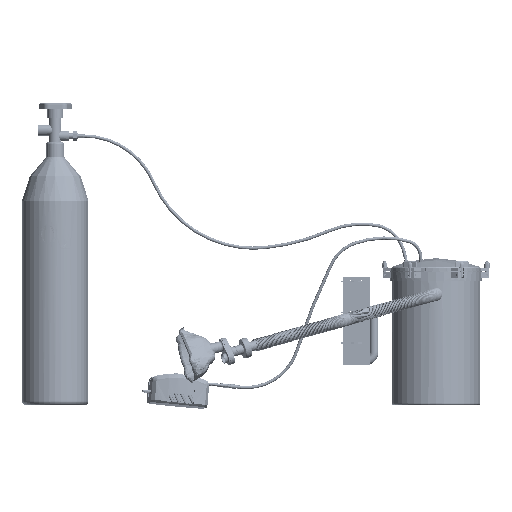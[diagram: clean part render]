
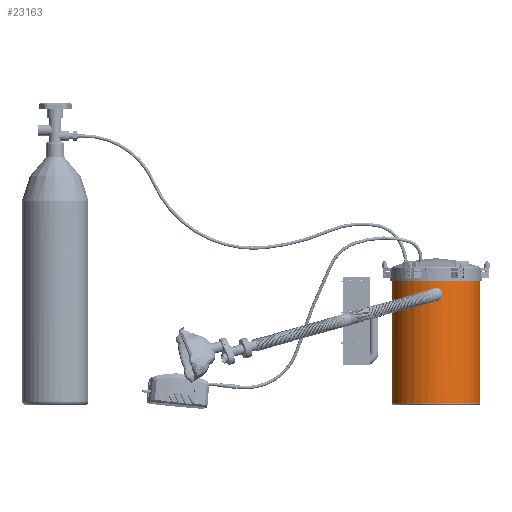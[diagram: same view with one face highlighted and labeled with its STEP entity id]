
A CAD part, top view. The second image highlights one B-rep face of the part: STEP entity #23163.
In plain terms, the highlighted cylindrical face has radius 100 mm (diameter 200 mm), a full revolution.
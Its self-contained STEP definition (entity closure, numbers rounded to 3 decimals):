
#6127=FACE_BOUND('',#8509,.T.);
#6128=FACE_BOUND('',#8510,.T.);
#6129=FACE_BOUND('',#8511,.T.);
#6466=B_SPLINE_CURVE_WITH_KNOTS('',3,(#32724,#32725,#32726,#32727,#32728,
#32729,#32730,#32731,#32732,#32733,#32734,#32735,#32736,#32737,#32738,#32739,
#32740,#32741,#32742,#32743,#32744,#32745,#32746,#32747,#32748,#32749,#32750,
#32751,#32752,#32753,#32754,#32755,#32756,#32757),.UNSPECIFIED.,.T.,.F.,
(4,2,2,2,2,2,2,2,2,2,2,2,2,2,2,2,4),(0.,0.377,0.754,
1.131,1.508,1.885,2.262,2.639,
3.016,3.393,3.77,4.147,4.523,
4.9,5.277,5.654,6.031),
 .UNSPECIFIED.);
#6467=B_SPLINE_CURVE_WITH_KNOTS('',3,(#32767,#32768,#32769,#32770,#32771,
#32772,#32773,#32774,#32775,#32776,#32777,#32778,#32779,#32780,#32781,#32782,
#32783),.UNSPECIFIED.,.T.,.F.,(4,1,1,1,1,1,1,1,1,1,1,1,1,1,4),(-13.411,
-12.863,-12.316,-11.768,-11.221,
-10.674,-10.126,-9.396,-9.032,
-8.667,-7.937,-7.389,-6.842,
-6.295,-5.747),.UNSPECIFIED.);
#7204=FACE_OUTER_BOUND('',#8508,.T.);
#8508=EDGE_LOOP('',(#16770));
#8509=EDGE_LOOP('',(#16771));
#8510=EDGE_LOOP('',(#16772));
#8511=EDGE_LOOP('',(#16773));
#10149=CIRCLE('',#24644,100.);
#10150=CIRCLE('',#24645,100.);
#10937=VERTEX_POINT('',#32723);
#10939=VERTEX_POINT('',#32762);
#10940=VERTEX_POINT('',#32764);
#10941=VERTEX_POINT('',#32766);
#13412=EDGE_CURVE('',#10937,#10937,#6466,.T.);
#13414=EDGE_CURVE('',#10939,#10939,#10149,.T.);
#13415=EDGE_CURVE('',#10940,#10940,#10150,.T.);
#13416=EDGE_CURVE('',#10941,#10941,#6467,.T.);
#16770=ORIENTED_EDGE('',*,*,#13414,.T.);
#16771=ORIENTED_EDGE('',*,*,#13412,.T.);
#16772=ORIENTED_EDGE('',*,*,#13415,.T.);
#16773=ORIENTED_EDGE('',*,*,#13416,.F.);
#22881=CYLINDRICAL_SURFACE('',#24643,100.);
#23163=ADVANCED_FACE('',(#7204,#6127,#6128,#6129),#22881,.T.);
#24643=AXIS2_PLACEMENT_3D('',#32761,#26752,#26753);
#24644=AXIS2_PLACEMENT_3D('',#32763,#26754,#26755);
#24645=AXIS2_PLACEMENT_3D('',#32765,#26756,#26757);
#26752=DIRECTION('center_axis',(-1.,0.,0.));
#26753=DIRECTION('ref_axis',(0.,0.,1.));
#26754=DIRECTION('center_axis',(1.,0.,0.));
#26755=DIRECTION('ref_axis',(0.,0.,1.));
#26756=DIRECTION('center_axis',(-1.,0.,0.));
#26757=DIRECTION('ref_axis',(0.,0.,1.));
#32723=CARTESIAN_POINT('',(-220.,-99.499,-110.));
#32724=CARTESIAN_POINT('Ctrl Pts',(-220.,-99.499,-110.));
#32725=CARTESIAN_POINT('Ctrl Pts',(-221.257,-99.499,-110.));
#32726=CARTESIAN_POINT('Ctrl Pts',(-222.596,-99.525,
-109.749));
#32727=CARTESIAN_POINT('Ctrl Pts',(-225.06,-99.62,
-108.728));
#32728=CARTESIAN_POINT('Ctrl Pts',(-226.184,-99.687,-107.958));
#32729=CARTESIAN_POINT('Ctrl Pts',(-227.958,-99.813,
-106.184));
#32730=CARTESIAN_POINT('Ctrl Pts',(-228.728,-99.88,-105.06));
#32731=CARTESIAN_POINT('Ctrl Pts',(-229.749,-99.974,
-102.596));
#32732=CARTESIAN_POINT('Ctrl Pts',(-230.,-100.,-101.257));
#32733=CARTESIAN_POINT('Ctrl Pts',(-230.,-100.,-98.743));
#32734=CARTESIAN_POINT('Ctrl Pts',(-229.749,-99.974,
-97.404));
#32735=CARTESIAN_POINT('Ctrl Pts',(-228.728,-99.88,-94.94));
#32736=CARTESIAN_POINT('Ctrl Pts',(-227.958,-99.813,
-93.816));
#32737=CARTESIAN_POINT('Ctrl Pts',(-226.184,-99.687,-92.042));
#32738=CARTESIAN_POINT('Ctrl Pts',(-225.06,-99.62,
-91.272));
#32739=CARTESIAN_POINT('Ctrl Pts',(-222.596,-99.525,
-90.251));
#32740=CARTESIAN_POINT('Ctrl Pts',(-221.257,-99.499,-90.));
#32741=CARTESIAN_POINT('Ctrl Pts',(-218.743,-99.499,-90.));
#32742=CARTESIAN_POINT('Ctrl Pts',(-217.404,-99.525,
-90.251));
#32743=CARTESIAN_POINT('Ctrl Pts',(-214.94,-99.62,
-91.272));
#32744=CARTESIAN_POINT('Ctrl Pts',(-213.816,-99.687,-92.042));
#32745=CARTESIAN_POINT('Ctrl Pts',(-212.042,-99.813,
-93.816));
#32746=CARTESIAN_POINT('Ctrl Pts',(-211.272,-99.88,-94.94));
#32747=CARTESIAN_POINT('Ctrl Pts',(-210.251,-99.974,
-97.404));
#32748=CARTESIAN_POINT('Ctrl Pts',(-210.,-100.,-98.743));
#32749=CARTESIAN_POINT('Ctrl Pts',(-210.,-100.,-101.257));
#32750=CARTESIAN_POINT('Ctrl Pts',(-210.251,-99.974,
-102.596));
#32751=CARTESIAN_POINT('Ctrl Pts',(-211.272,-99.88,-105.06));
#32752=CARTESIAN_POINT('Ctrl Pts',(-212.042,-99.813,
-106.184));
#32753=CARTESIAN_POINT('Ctrl Pts',(-213.816,-99.687,-107.958));
#32754=CARTESIAN_POINT('Ctrl Pts',(-214.94,-99.62,
-108.728));
#32755=CARTESIAN_POINT('Ctrl Pts',(-217.404,-99.525,
-109.749));
#32756=CARTESIAN_POINT('Ctrl Pts',(-218.743,-99.499,-110.));
#32757=CARTESIAN_POINT('Ctrl Pts',(-220.,-99.499,-110.));
#32761=CARTESIAN_POINT('Origin',(-152.5,0.,-100.));
#32762=CARTESIAN_POINT('',(-280.,0.,0.));
#32763=CARTESIAN_POINT('Origin',(-280.,0.,-100.));
#32764=CARTESIAN_POINT('',(-5.,0.,0.));
#32765=CARTESIAN_POINT('Origin',(-5.,0.,-100.));
#32766=CARTESIAN_POINT('',(-235.3,0.,0.));
#32767=CARTESIAN_POINT('Ctrl Pts',(-235.299,0.,
0.));
#32768=CARTESIAN_POINT('Ctrl Pts',(-235.299,2.158,0.));
#32769=CARTESIAN_POINT('Ctrl Pts',(-236.307,6.474,-0.149));
#32770=CARTESIAN_POINT('Ctrl Pts',(-240.519,11.65,-0.653));
#32771=CARTESIAN_POINT('Ctrl Pts',(-246.609,14.53,-1.06));
#32772=CARTESIAN_POINT('Ctrl Pts',(-253.392,14.531,-1.059));
#32773=CARTESIAN_POINT('Ctrl Pts',(-259.476,11.648,-0.655));
#32774=CARTESIAN_POINT('Ctrl Pts',(-264.169,5.901,-0.089));
#32775=CARTESIAN_POINT('Ctrl Pts',(-265.205,-0.793,
0.075));
#32776=CARTESIAN_POINT('Ctrl Pts',(-263.436,-6.351,
-0.177));
#32777=CARTESIAN_POINT('Ctrl Pts',(-260.111,-11.157,-0.581));
#32778=CARTESIAN_POINT('Ctrl Pts',(-254.147,-14.537,
-1.063));
#32779=CARTESIAN_POINT('Ctrl Pts',(-246.609,-14.528,
-1.059));
#32780=CARTESIAN_POINT('Ctrl Pts',(-240.521,-11.65,-0.653));
#32781=CARTESIAN_POINT('Ctrl Pts',(-236.307,-6.474,-0.149));
#32782=CARTESIAN_POINT('Ctrl Pts',(-235.299,-2.158,
0.001));
#32783=CARTESIAN_POINT('Ctrl Pts',(-235.299,0.,
0.));
